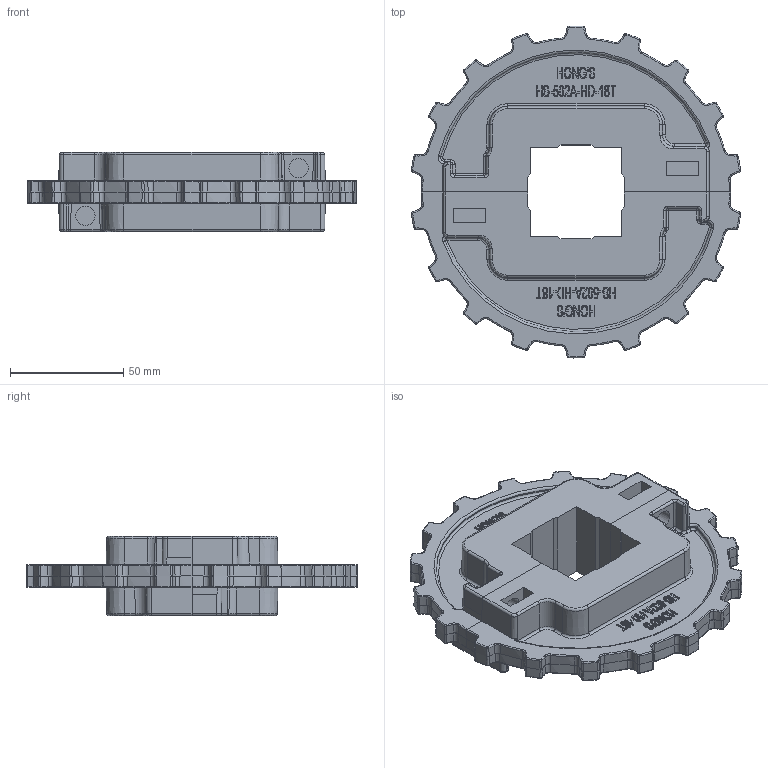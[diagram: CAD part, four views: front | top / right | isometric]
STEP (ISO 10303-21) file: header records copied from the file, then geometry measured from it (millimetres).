
FILE_DESCRIPTION(/* description */ (''),/* implementation_level */ '2;1');
FILE_NAME(/* name */ 'HS-502A-HD-DK-18T.stp',/* time_stamp */ '2023-02-06T11:23:24+08:00',/* author */ (''),/* organization */ (''),/* preprocessor_version */ 'ST-DEVELOPER v15',/* originating_system */ 'SIEMENS PLM Software NX 8.5',/* authorisation */ '');
FILE_SCHEMA (('AP203_CONFIGURATION_CONTROLLED_3D_DESIGN_OF_MECHANICAL_PARTS_AND_ASSEMBLIES_MIM_LF { 1 0 10303 403 2 1 2}'));
Products named in the file (1): Admi2504EE77mttc
Bounding box: 145.11 x 146.37 x 35 mm (x, y, z)
Volume: 236175.8 mm3; surface area: 59173 mm2
Topology: 2 solids, 2 shells, 1374 faces, 3322 edges, 2000 vertices
Faces by surface type: plane 460, torus 264, cone 236, bspline 200, cylinder 120, extrusion 78, sphere 16
Full cylindrical faces by diameter (mm): 8.5 x8
Entity records: 60714 total; most frequent: CARTESIAN_POINT 20995, ORIENTED_EDGE 6540, DIRECTION 5846, EDGE_CURVE 3270, AXIS2_PLACEMENT_3D 2357, VERTEX_POINT 1988, EDGE_LOOP 1478, PRESENTATION_STYLE_ASSIGNMENT 1376
